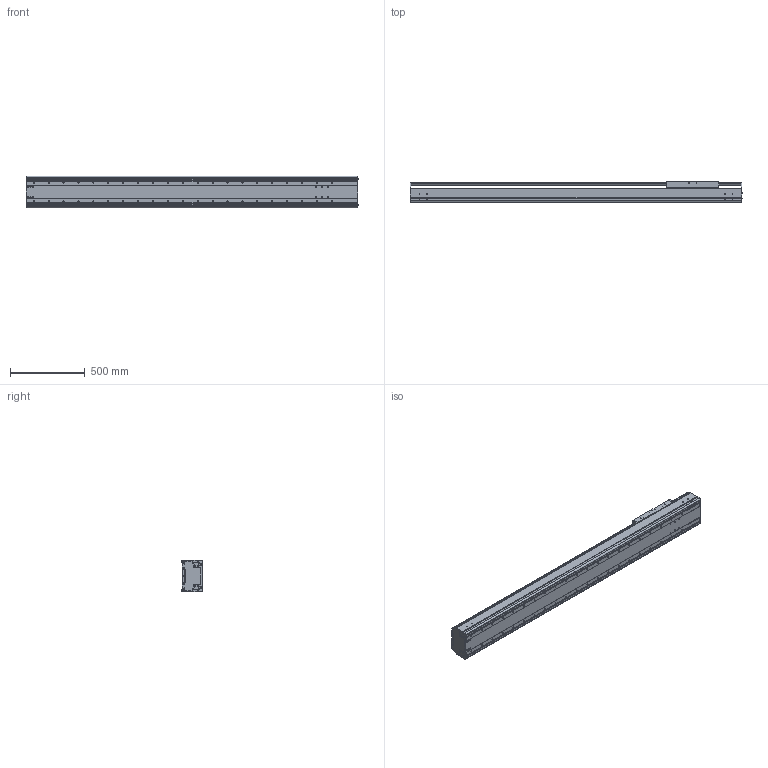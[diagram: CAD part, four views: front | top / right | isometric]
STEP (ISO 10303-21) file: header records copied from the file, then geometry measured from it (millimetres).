
FILE_DESCRIPTION((''),'2;1');
FILE_NAME('BE60J-ST-L_B-G5_IGS_PRT','2017-06-18T',(' '),(''),'PRO/ENGINEER BY PARAMETRIC TECHNOLOGY CORPORATION, 2015030','PRO/ENGINEER BY PARAMETRIC TECHNOLOGY CORPORATION, 2015030','');
FILE_SCHEMA(('CONFIG_CONTROL_DESIGN'));
Length unit declared in the file: millimetre
Products named in the file (1): BE60J-ST-L_B-G5_IGS_PRT
Bounding box: 2227.4 x 140 x 214 mm (x, y, z)
Volume: 17425516.2 mm3; surface area: 4602754.3 mm2
Topology: 2 solids, 32 shells, 1179 faces, 3096 edges, 1994 vertices
Faces by surface type: plane 543, cylinder 528, cone 60, torus 24, sphere 24
Entity records: 36721 total; most frequent: CARTESIAN_POINT 6866, DIRECTION 6418, ORIENTED_EDGE 5960, EDGE_CURVE 3036, AXIS2_PLACEMENT_3D 2324, VERTEX_POINT 1992, VECTOR 1770, LINE 1770
